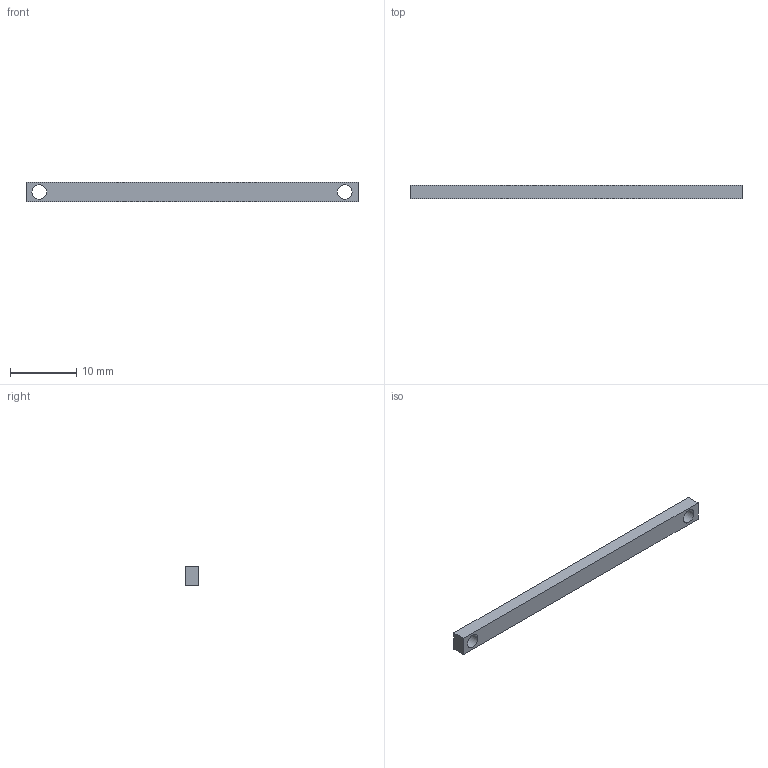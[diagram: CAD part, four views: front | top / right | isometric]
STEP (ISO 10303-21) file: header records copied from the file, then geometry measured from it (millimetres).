
FILE_DESCRIPTION(('Open CASCADE Model'),'2;1');
FILE_NAME('Open CASCADE Shape Model','2026-11-09T21:30:06',('Author'),( 'Open CASCADE'),'Open CASCADE STEP processor 8.0','Open CASCADE 8.0' ,'Unknown');
FILE_SCHEMA(('AUTOMOTIVE_DESIGN { 1 0 10303 214 1 1 1 1 }'));
Length unit declared in the file: millimetre
Products named in the file (1): Open CASCADE STEP translator 8.0 6
Bounding box: 50 x 2 x 3 mm (x, y, z)
Volume: 284.8 mm3; surface area: 524.4 mm2
Topology: 1 solids, 1 shells, 8 faces, 18 edges, 12 vertices
Faces by surface type: plane 6, cylinder 2
Full cylindrical faces by diameter (mm): 2.2 x2
Entity records: 478 total; most frequent: DIRECTION 76, CARTESIAN_POINT 75, LINE 46, VECTOR 46, ORIENTED_EDGE 36, PCURVE 36, DEFINITIONAL_REPRESENTATION 36, EDGE_CURVE 18
